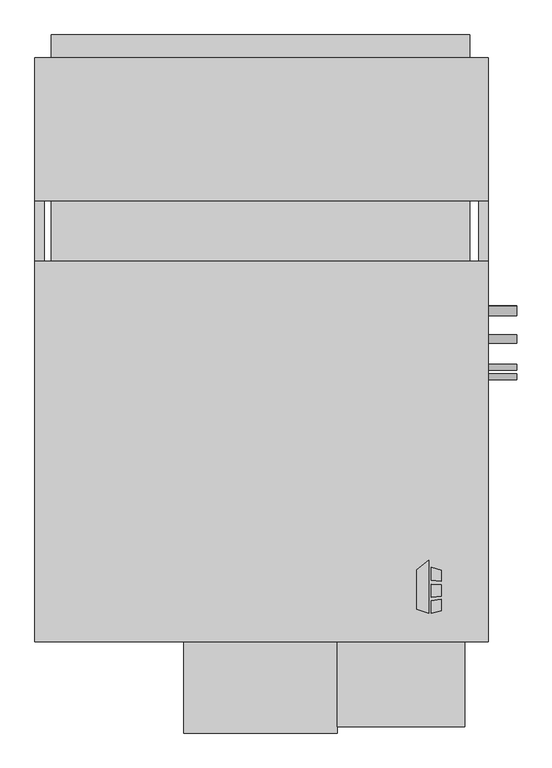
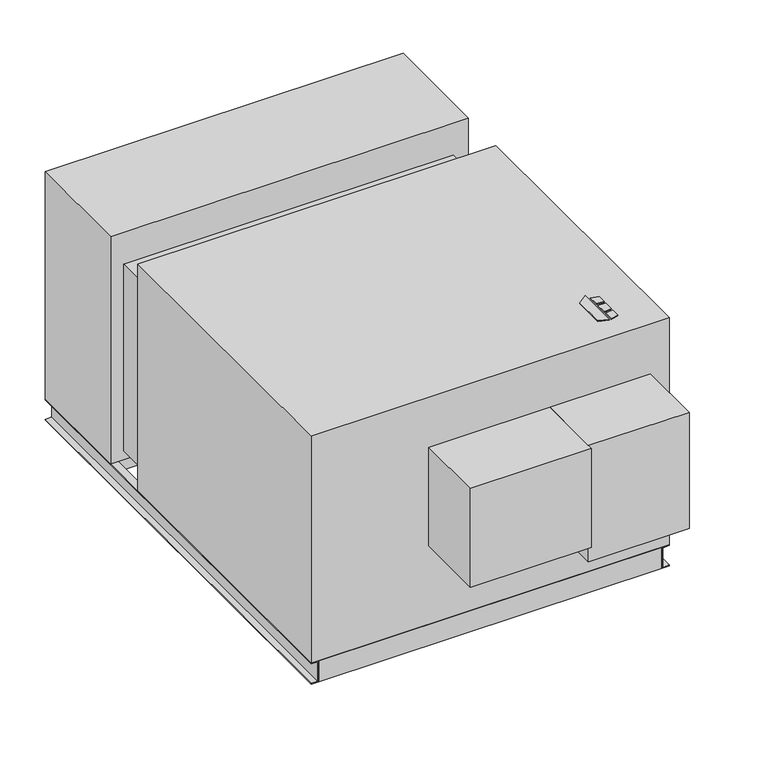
"""IFC4 building model written with IfcOpenShell, lengths in millimetres: proxy geometry, Horizontal_Direct_Drive_Blower_Coil_Unit_-_HDY_-_IEC_-_4-Pipe_NFilterR_W-MixingBox_RH_2022 : Size 30 - 460v/60Hz/3Ph - 6/2 Coil."""

from ifc_helpers import new_model, si_unit, point, frame, frame_2d, origin, origin_with_axes, place, context, project, spatial, polyline, circle_curve, trimmed, segment, composite_curve, outline, extrude, source, transform, mapped, element, save


def mechanical_equipment_2c5130ff(model_context):
    return source(origin(), model_context, "Body", "SweptSolid", [
        extrude(outline(polyline([(-39.9980239, -337.5078476), (-7.4397272, -312.0705184), (-7.4397272, -454.025), (-39.9980239, -443.8054201), (-39.9980239, -337.5078476)])), origin_with_axes(), (0.0, 0.0, 1.0), 3.175),
        extrude(outline(polyline([(-0.6813942, -365.379852), (-0.6813942, -330.8999379), (25.4, -339.0865115), (25.4, -368.5822446), (-0.6813942, -365.379852)])), origin_with_axes(), (0.0, 0.0, 1.0), 3.175),
        extrude(outline(polyline([(25.4, -447.0365115), (-0.6813942, -454.025), (-0.6813942, -420.8036996), (25.4, -417.2618564), (25.4, -447.0365115)])), origin_with_axes(), (0.0, 0.0, 1.0), 3.175),
        extrude(outline(polyline([(25.4, -377.6638277), (25.4, -408.913983), (-0.6813942, -411.655248), (-0.6813942, -375.7975378), (25.4, -377.6638277)])), origin_with_axes(), (0.0, 0.0, 1.0), 3.175),
        extrude(outline(polyline([(101.6, 937.895), (101.6, 683.895), (-1022.35, 683.895), (-1022.35, 937.895), (101.6, 937.895)])), frame((0.0, 0.0, -880.11), z_axis=(0.0, 0.0, 1.0), x_axis=(1.0, 0.0, 0.0)), (0.0, 0.0, 1.0), 60.96),
        extrude(outline(polyline([(-1022.35, 1100.455), (101.6, 1100.455), (101.6, 1039.495), (-1022.35, 1039.495), (-1022.35, 1100.455)])), frame((0.0, 0.0, -330.2), z_axis=(0.0, 0.0, 1.0), x_axis=(1.0, 0.0, 0.0)), (0.0, 0.0, 1.0), 254.0),
        extrude(outline(polyline([(152.4, 1039.495), (152.4, 654.05), (-1066.8, 654.05), (-1066.8, 1039.495), (152.4, 1039.495)])), frame((0.0, 0.0, -819.15), z_axis=(0.0, 0.0, 1.0), x_axis=(1.0, 0.0, 0.0)), (0.0, 0.0, 1.0), 819.15),
        extrude(outline(polyline([(127.0, -504.825), (127.0, -530.225), (-1041.4, -530.225), (-1041.4, -504.825), (127.0, -504.825)])), frame((0.0, 0.0, -895.35), z_axis=(0.0, 0.0, 1.0), x_axis=(1.0, 0.0, 0.0)), (0.0, 0.0, 1.0), 76.2),
        extrude(outline(polyline([(127.0, 1039.495), (127.0, 1014.095), (-1041.4, 1014.095), (-1041.4, 1039.495), (127.0, 1039.495)])), frame((0.0, 0.0, -895.35), z_axis=(0.0, 0.0, 1.0), x_axis=(1.0, 0.0, 0.0)), (0.0, 0.0, 1.0), 76.2),
        extrude(outline(polyline([(-819.15, -1041.4), (-819.15, -1066.8), (-822.325, -1066.8), (-822.325, -1044.575), (-892.175, -1044.575), (-892.175, -1066.8), (-895.35, -1066.8), (-895.35, -1041.4), (-819.15, -1041.4)])), frame((0.0, -530.225, 0.0), z_axis=(0.0, 1.0, 0.0), x_axis=(0.0, 0.0, 1.0)), (0.0, 0.0, 1.0), 1569.72),
        extrude(outline(polyline([(-819.15, 127.0), (-895.35, 127.0), (-895.35, 152.4), (-892.175, 152.4), (-892.175, 130.175), (-822.325, 130.175), (-822.325, 152.4), (-819.15, 152.4), (-819.15, 127.0)])), frame((0.0, -530.225, 0.0), z_axis=(0.0, 1.0, 0.0), x_axis=(0.0, 0.0, 1.0)), (0.0, 0.0, 1.0), 1569.72),
        extrude(outline(composite_curve([segment(trimmed(circle_curve(frame_2d((358.775, -177.8)), 12.7), [point((371.475, -177.8))], [point((346.075, -177.8))], False, "CARTESIAN"), True, "CONTINUOUS"), segment(trimmed(circle_curve(frame_2d((358.775, -177.8)), 12.7), [point((346.075, -177.8))], [point((371.475, -177.8))], False, "CARTESIAN"), True, "CONTINUOUS")], self_intersect=False)), frame((152.4, 0.0, 0.0), z_axis=(1.0, 0.0, 0.0), x_axis=(0.0, 1.0, 0.0)), (0.0, 0.0, 1.0), 76.2),
        extrude(outline(composite_curve([segment(trimmed(circle_curve(frame_2d((359.642288, -692.15)), 12.7), [point((372.342288, -692.15))], [point((346.942288, -692.15))], False, "CARTESIAN"), True, "CONTINUOUS"), segment(trimmed(circle_curve(frame_2d((359.642288, -692.15)), 12.7), [point((346.942288, -692.15))], [point((372.342288, -692.15))], False, "CARTESIAN"), True, "CONTINUOUS")], self_intersect=False)), frame((152.4, 0.0, 0.0), z_axis=(1.0, 0.0, 0.0), x_axis=(0.0, 1.0, 0.0)), (0.0, 0.0, 1.0), 76.2),
        extrude(outline(composite_curve([segment(trimmed(circle_curve(frame_2d((283.442288, -774.7)), 11.1125), [point((294.554788, -774.7))], [point((272.329788, -774.7))], False, "CARTESIAN"), True, "CONTINUOUS"), segment(trimmed(circle_curve(frame_2d((283.442288, -774.7)), 11.1125), [point((272.329788, -774.7))], [point((294.554788, -774.7))], False, "CARTESIAN"), True, "CONTINUOUS")], self_intersect=False)), frame((152.4, 0.0, 0.0), z_axis=(1.0, 0.0, 0.0), x_axis=(0.0, 1.0, 0.0)), (0.0, 0.0, 1.0), 76.2),
        extrude(outline(composite_curve([segment(trimmed(circle_curve(frame_2d((207.242288, -228.6)), 7.9375), [point((215.179788, -228.6))], [point((199.304788, -228.6))], False, "CARTESIAN"), True, "CONTINUOUS"), segment(trimmed(circle_curve(frame_2d((207.242288, -228.6)), 7.9375), [point((199.304788, -228.6))], [point((215.179788, -228.6))], False, "CARTESIAN"), True, "CONTINUOUS")], self_intersect=False)), frame((152.4, 0.0, 0.0), z_axis=(1.0, 0.0, 0.0), x_axis=(0.0, 1.0, 0.0)), (0.0, 0.0, 1.0), 76.2),
        extrude(outline(composite_curve([segment(trimmed(circle_curve(frame_2d((181.842288, -641.6292556)), 7.9375), [point((189.779788, -641.6292556))], [point((173.904788, -641.6292556))], False, "CARTESIAN"), True, "CONTINUOUS"), segment(trimmed(circle_curve(frame_2d((181.842288, -641.6292556)), 7.9375), [point((173.904788, -641.6292556))], [point((189.779788, -641.6292556))], False, "CARTESIAN"), True, "CONTINUOUS")], self_intersect=False)), frame((152.4, 0.0, 0.0), z_axis=(1.0, 0.0, 0.0), x_axis=(0.0, 1.0, 0.0)), (0.0, 0.0, 1.0), 76.2),
        extrude(outline(polyline([(152.4, 492.125), (152.4, -530.225), (-1066.8, -530.225), (-1066.8, 492.125), (152.4, 492.125)])), frame((0.0, 0.0, -819.15), z_axis=(0.0, 0.0, 1.0), x_axis=(1.0, 0.0, 0.0)), (0.0, 0.0, 1.0), 819.15),
        extrude(outline(polyline([(88.9, -758.825), (-254.0, -758.825), (-254.0, -530.225), (88.9, -530.225), (88.9, -758.825)])), frame((0.0, 0.0, -600.075), z_axis=(0.0, 0.0, 1.0), x_axis=(1.0, 0.0, 0.0)), (0.0, 0.0, 1.0), 419.1),
        extrude(outline(polyline([(-1022.35, 654.05), (101.6, 654.05), (101.6, 492.125), (-1022.35, 492.125), (-1022.35, 654.05)])), frame((0.0, 0.0, -787.4), z_axis=(0.0, 0.0, 1.0), x_axis=(1.0, 0.0, 0.0)), (0.0, 0.0, 1.0), 673.1),
        extrude(outline(polyline([(-254.0, -776.2875), (-666.75, -776.2875), (-666.75, -530.225), (-254.0, -530.225), (-254.0, -776.2875)])), frame((0.0, 0.0, -536.575), z_axis=(0.0, 0.0, 1.0), x_axis=(1.0, 0.0, 0.0)), (0.0, 0.0, 1.0), 355.6),
    ])


if __name__ == "__main__":
    model = new_model("IFC4")
    model_context = context("Model", 3, world=origin())
    ifc_project = project(units=[si_unit("LENGTHUNIT", "METRE", prefix="MILLI")], contexts=[model_context])
    site = spatial("IfcSite", under=ifc_project)
    building = spatial("IfcBuilding", under=site)
    placement = place(None, origin())
    mechanical_equipment_shape = mechanical_equipment_2c5130ff(model_context)
    element("IfcBuildingElementProxy", 1, Name="Horizontal_Direct_Drive_Blower_Coil_Unit_-_HDY_-_IEC_-_4-Pipe_NFilterR_W-MixingBox_RH_2022 : Size 30 - 460v/60Hz/3Ph - 6/2 Coil", ObjectType="Horizontal_Direct_Drive_Blower_Coil_Unit_-_HDY_-_IEC_-_4-Pipe_NFilterR_W-MixingBox_RH_2022 : Size 30 - 460v/60Hz/3Ph - 6/2 Coil", at=placement, inside=building, context=model_context, shape_type="MappedRepresentation", body=[
        mapped(mechanical_equipment_shape, transform((0.0, 0.0, 0.0), x_axis=(1.0, 0.0, 0.0), y_axis=(0.0, 1.0, 0.0), z_axis=(0.0, 0.0, 1.0))),
    ])
    save(model, "model.ifc")
